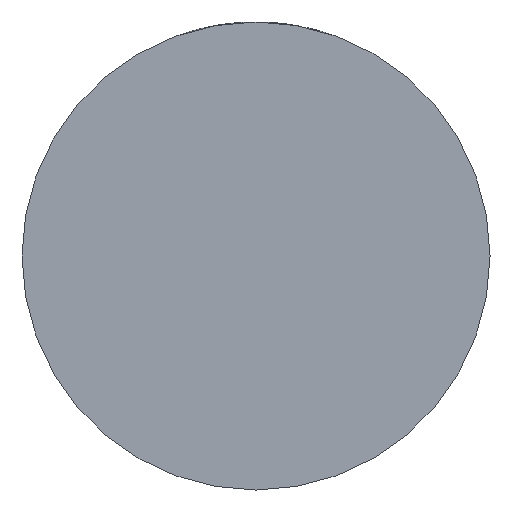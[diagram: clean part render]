
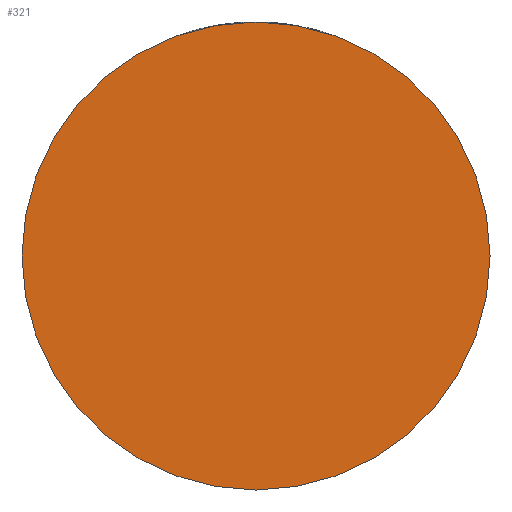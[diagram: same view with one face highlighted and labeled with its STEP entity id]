
A CAD part, front view. The second image highlights one B-rep face of the part: STEP entity #321.
In plain terms, the highlighted planar face has unit normal (0, -1, 0).
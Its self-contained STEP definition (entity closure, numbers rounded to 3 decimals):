
#101 = EDGE_LOOP ( 'NONE', ( #3474, #1202 ) ) ;
#321 = ADVANCED_FACE ( 'NONE', ( #1959 ), #4197, .T. ) ;
#443 = DIRECTION ( 'NONE',  ( 0., -1., 0. ) ) ;
#467 = CIRCLE ( 'NONE', #4048, 32.5 ) ;
#970 = VERTEX_POINT ( 'NONE', #1165 ) ;
#1040 = DIRECTION ( 'NONE',  ( 1., 0., 0. ) ) ;
#1080 = DIRECTION ( 'NONE',  ( 0., -1., 0. ) ) ;
#1162 = DIRECTION ( 'NONE',  ( 1., 0., 0. ) ) ;
#1165 = CARTESIAN_POINT ( 'NONE',  ( -32.5, -26., 0. ) ) ;
#1202 = ORIENTED_EDGE ( 'NONE', *, *, #1478, .T. ) ;
#1279 = DIRECTION ( 'NONE',  ( 1., 0., 0. ) ) ;
#1299 = EDGE_CURVE ( 'NONE', #970, #2243, #467, .T. ) ;
#1389 = CARTESIAN_POINT ( 'NONE',  ( 32.5, -26., 0. ) ) ;
#1478 = EDGE_CURVE ( 'NONE', #2243, #970, #1682, .T. ) ;
#1682 = CIRCLE ( 'NONE', #1884, 32.5 ) ;
#1884 = AXIS2_PLACEMENT_3D ( 'NONE', #2752, #443, #1162 ) ;
#1959 = FACE_OUTER_BOUND ( 'NONE', #101, .T. ) ;
#1981 = DIRECTION ( 'NONE',  ( 0., -1., 0. ) ) ;
#2091 = AXIS2_PLACEMENT_3D ( 'NONE', #3274, #1981, #1279 ) ;
#2243 = VERTEX_POINT ( 'NONE', #1389 ) ;
#2752 = CARTESIAN_POINT ( 'NONE',  ( 0., -26., 0. ) ) ;
#3274 = CARTESIAN_POINT ( 'NONE',  ( 0., -26., 0. ) ) ;
#3425 = CARTESIAN_POINT ( 'NONE',  ( 0., -26., 0. ) ) ;
#3474 = ORIENTED_EDGE ( 'NONE', *, *, #1299, .T. ) ;
#4048 = AXIS2_PLACEMENT_3D ( 'NONE', #3425, #1080, #1040 ) ;
#4197 = PLANE ( 'NONE',  #2091 ) ;
